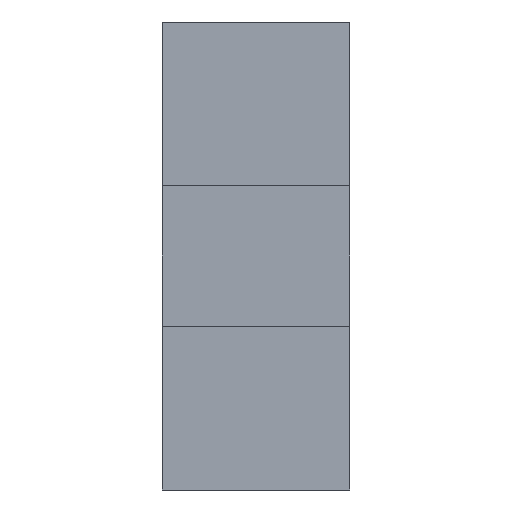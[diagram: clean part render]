
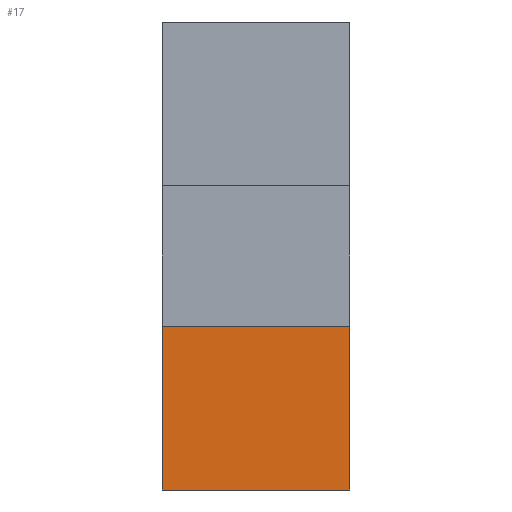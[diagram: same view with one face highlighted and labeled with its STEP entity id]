
A CAD part, left-side view. The second image highlights one B-rep face of the part: STEP entity #17.
In plain terms, the highlighted planar face has unit normal (-1, 0, 0).
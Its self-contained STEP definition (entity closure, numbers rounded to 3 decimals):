
#17 = ADVANCED_FACE('',(#18),#32,.F.);
#18 = FACE_BOUND('',#19,.F.);
#19 = EDGE_LOOP('',(#20,#55,#83,#111));
#20 = ORIENTED_EDGE('',*,*,#21,.F.);
#21 = EDGE_CURVE('',#22,#24,#26,.T.);
#22 = VERTEX_POINT('',#23);
#23 = CARTESIAN_POINT('',(8.,-15.,17.));
#24 = VERTEX_POINT('',#25);
#25 = CARTESIAN_POINT('',(8.,-15.,20.5));
#26 = SURFACE_CURVE('',#27,(#31,#43),.PCURVE_S1.);
#27 = LINE('',#28,#29);
#28 = CARTESIAN_POINT('',(8.,-15.,17.));
#29 = VECTOR('',#30,1.);
#30 = DIRECTION('',(0.,0.,1.));
#31 = PCURVE('',#32,#37);
#32 = PLANE('',#33);
#33 = AXIS2_PLACEMENT_3D('',#34,#35,#36);
#34 = CARTESIAN_POINT('',(8.,-15.,17.));
#35 = DIRECTION('',(1.,0.,0.));
#36 = DIRECTION('',(0.,0.,1.));
#37 = DEFINITIONAL_REPRESENTATION('',(#38),#42);
#38 = LINE('',#39,#40);
#39 = CARTESIAN_POINT('',(0.,0.));
#40 = VECTOR('',#41,1.);
#41 = DIRECTION('',(1.,0.));
#42 = ( GEOMETRIC_REPRESENTATION_CONTEXT(2)
PARAMETRIC_REPRESENTATION_CONTEXT() REPRESENTATION_CONTEXT('2D SPACE',''
  ) );
#43 = PCURVE('',#44,#49);
#44 = PLANE('',#45);
#45 = AXIS2_PLACEMENT_3D('',#46,#47,#48);
#46 = CARTESIAN_POINT('',(8.,-15.,17.));
#47 = DIRECTION('',(0.,1.,0.));
#48 = DIRECTION('',(0.,0.,1.));
#49 = DEFINITIONAL_REPRESENTATION('',(#50),#54);
#50 = LINE('',#51,#52);
#51 = CARTESIAN_POINT('',(0.,0.));
#52 = VECTOR('',#53,1.);
#53 = DIRECTION('',(1.,0.));
#54 = ( GEOMETRIC_REPRESENTATION_CONTEXT(2)
PARAMETRIC_REPRESENTATION_CONTEXT() REPRESENTATION_CONTEXT('2D SPACE',''
  ) );
#55 = ORIENTED_EDGE('',*,*,#56,.T.);
#56 = EDGE_CURVE('',#22,#57,#59,.T.);
#57 = VERTEX_POINT('',#58);
#58 = CARTESIAN_POINT('',(8.,-11.,17.));
#59 = SURFACE_CURVE('',#60,(#64,#71),.PCURVE_S1.);
#60 = LINE('',#61,#62);
#61 = CARTESIAN_POINT('',(8.,-15.,17.));
#62 = VECTOR('',#63,1.);
#63 = DIRECTION('',(0.,1.,0.));
#64 = PCURVE('',#32,#65);
#65 = DEFINITIONAL_REPRESENTATION('',(#66),#70);
#66 = LINE('',#67,#68);
#67 = CARTESIAN_POINT('',(0.,0.));
#68 = VECTOR('',#69,1.);
#69 = DIRECTION('',(0.,-1.));
#70 = ( GEOMETRIC_REPRESENTATION_CONTEXT(2)
PARAMETRIC_REPRESENTATION_CONTEXT() REPRESENTATION_CONTEXT('2D SPACE',''
  ) );
#71 = PCURVE('',#72,#77);
#72 = PLANE('',#73);
#73 = AXIS2_PLACEMENT_3D('',#74,#75,#76);
#74 = CARTESIAN_POINT('',(8.,-15.,17.));
#75 = DIRECTION('',(0.,0.,1.));
#76 = DIRECTION('',(1.,0.,0.));
#77 = DEFINITIONAL_REPRESENTATION('',(#78),#82);
#78 = LINE('',#79,#80);
#79 = CARTESIAN_POINT('',(0.,0.));
#80 = VECTOR('',#81,1.);
#81 = DIRECTION('',(0.,1.));
#82 = ( GEOMETRIC_REPRESENTATION_CONTEXT(2)
PARAMETRIC_REPRESENTATION_CONTEXT() REPRESENTATION_CONTEXT('2D SPACE',''
  ) );
#83 = ORIENTED_EDGE('',*,*,#84,.T.);
#84 = EDGE_CURVE('',#57,#85,#87,.T.);
#85 = VERTEX_POINT('',#86);
#86 = CARTESIAN_POINT('',(8.,-11.,20.5));
#87 = SURFACE_CURVE('',#88,(#92,#99),.PCURVE_S1.);
#88 = LINE('',#89,#90);
#89 = CARTESIAN_POINT('',(8.,-11.,17.));
#90 = VECTOR('',#91,1.);
#91 = DIRECTION('',(0.,0.,1.));
#92 = PCURVE('',#32,#93);
#93 = DEFINITIONAL_REPRESENTATION('',(#94),#98);
#94 = LINE('',#95,#96);
#95 = CARTESIAN_POINT('',(0.,-4.));
#96 = VECTOR('',#97,1.);
#97 = DIRECTION('',(1.,0.));
#98 = ( GEOMETRIC_REPRESENTATION_CONTEXT(2)
PARAMETRIC_REPRESENTATION_CONTEXT() REPRESENTATION_CONTEXT('2D SPACE',''
  ) );
#99 = PCURVE('',#100,#105);
#100 = PLANE('',#101);
#101 = AXIS2_PLACEMENT_3D('',#102,#103,#104);
#102 = CARTESIAN_POINT('',(8.,-11.,17.));
#103 = DIRECTION('',(0.,1.,0.));
#104 = DIRECTION('',(0.,0.,1.));
#105 = DEFINITIONAL_REPRESENTATION('',(#106),#110);
#106 = LINE('',#107,#108);
#107 = CARTESIAN_POINT('',(0.,0.));
#108 = VECTOR('',#109,1.);
#109 = DIRECTION('',(1.,0.));
#110 = ( GEOMETRIC_REPRESENTATION_CONTEXT(2)
PARAMETRIC_REPRESENTATION_CONTEXT() REPRESENTATION_CONTEXT('2D SPACE',''
  ) );
#111 = ORIENTED_EDGE('',*,*,#112,.F.);
#112 = EDGE_CURVE('',#24,#85,#113,.T.);
#113 = SURFACE_CURVE('',#114,(#118,#125),.PCURVE_S1.);
#114 = LINE('',#115,#116);
#115 = CARTESIAN_POINT('',(8.,-15.,20.5));
#116 = VECTOR('',#117,1.);
#117 = DIRECTION('',(0.,1.,0.));
#118 = PCURVE('',#32,#119);
#119 = DEFINITIONAL_REPRESENTATION('',(#120),#124);
#120 = LINE('',#121,#122);
#121 = CARTESIAN_POINT('',(3.5,0.));
#122 = VECTOR('',#123,1.);
#123 = DIRECTION('',(0.,-1.));
#124 = ( GEOMETRIC_REPRESENTATION_CONTEXT(2)
PARAMETRIC_REPRESENTATION_CONTEXT() REPRESENTATION_CONTEXT('2D SPACE',''
  ) );
#125 = PCURVE('',#126,#131);
#126 = PLANE('',#127);
#127 = AXIS2_PLACEMENT_3D('',#128,#129,#130);
#128 = CARTESIAN_POINT('',(1.1,-15.,20.5));
#129 = DIRECTION('',(0.,0.,1.));
#130 = DIRECTION('',(1.,0.,0.));
#131 = DEFINITIONAL_REPRESENTATION('',(#132),#136);
#132 = LINE('',#133,#134);
#133 = CARTESIAN_POINT('',(6.9,0.));
#134 = VECTOR('',#135,1.);
#135 = DIRECTION('',(0.,1.));
#136 = ( GEOMETRIC_REPRESENTATION_CONTEXT(2)
PARAMETRIC_REPRESENTATION_CONTEXT() REPRESENTATION_CONTEXT('2D SPACE',''
  ) );
